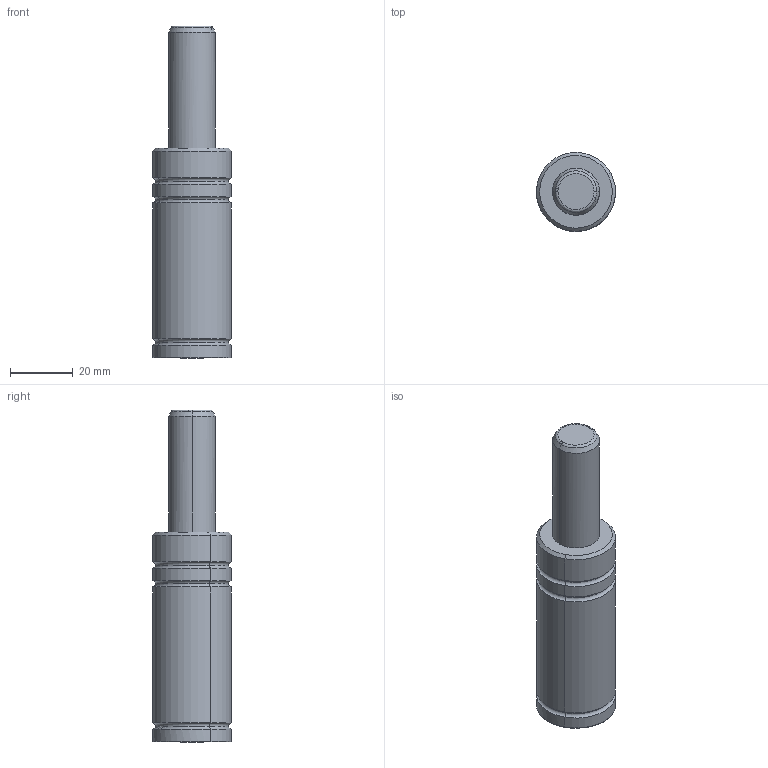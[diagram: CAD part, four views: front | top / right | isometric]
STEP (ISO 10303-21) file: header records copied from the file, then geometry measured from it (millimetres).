
FILE_DESCRIPTION(('CATIA V5 STEP Exchange'),'2;1');
FILE_NAME('W:\CATALOGO GENERAL 2018\FICHEROS CAD\001-MICRO\MICRO 25V\MICRO25Vx38.stp','2021-07-27T06:51:08+00:00',('none'),('none'),'CATIA Version 5 Release 17 (IN-10)','CATIA V5 STEP AP203','none');
FILE_SCHEMA(('CONFIG_CONTROL_DESIGN'));
Length unit declared in the file: millimetre
Products named in the file (1): MICRO25Vx38
Bounding box: 25.19 x 25.19 x 106 mm (x, y, z)
Volume: 39711.4 mm3; surface area: 8712.6 mm2
Topology: 2 solids, 2 shells, 42 faces, 83 edges, 46 vertices
Faces by surface type: torus 18, cylinder 12, cone 7, plane 5
Entity records: 1135 total; most frequent: CARTESIAN_POINT 282, ORIENTED_EDGE 166, DIRECTION 148, AXIS2_PLACEMENT_3D 94, EDGE_CURVE 83, CIRCLE 57, VERTEX_POINT 46, EDGE_LOOP 43
